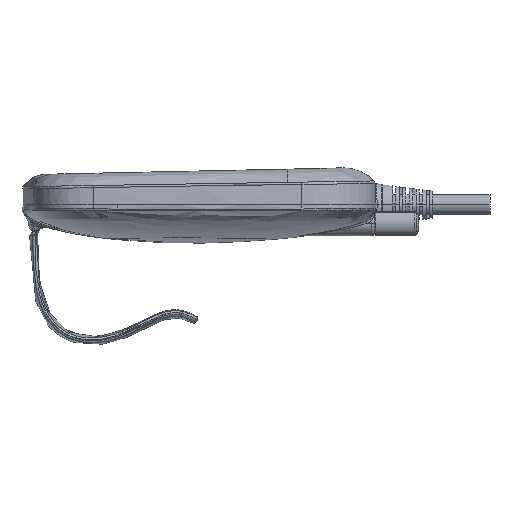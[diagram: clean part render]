
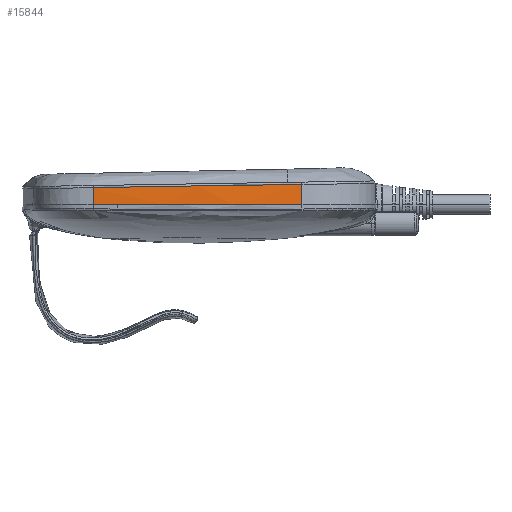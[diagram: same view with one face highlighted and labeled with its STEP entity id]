
A CAD part, left-side view. The second image highlights one B-rep face of the part: STEP entity #15844.
In plain terms, the highlighted conical face has half-angle 2 degrees and reference radius 450 mm.
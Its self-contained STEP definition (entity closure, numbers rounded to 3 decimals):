
#575 = DIRECTION ( 'NONE',  ( 1., 0., 0. ) ) ;
#582 = CARTESIAN_POINT ( 'NONE',  ( 356.381, 29.9, 0. ) ) ;
#583 = DIRECTION ( 'NONE',  ( 0., 0., -1. ) ) ;
#9381 = LINE ( 'NONE', #48833, #9403 ) ;
#9403 = VECTOR ( 'NONE', #48834, 1000. ) ;
#9409 = CIRCLE ( 'NONE', #34442, 450. ) ;
#9432 = LINE ( 'NONE', #14255, #9434 ) ;
#9434 = VECTOR ( 'NONE', #14256, 1000. ) ;
#14255 = CARTESIAN_POINT ( 'NONE',  ( -93.563, 37., 0. ) ) ;
#14256 = DIRECTION ( 'NONE',  ( -0.035, 0.001, -0.999 ) ) ;
#15844 = ADVANCED_FACE ( 'NONE', ( #41648 ), #41659, .T. ) ;
#20206 = EDGE_LOOP ( 'NONE', ( #49499, #49398, #49372, #49411 ) ) ;
#21352 = AXIS2_PLACEMENT_3D ( 'NONE', #582, #583, #575 ) ;
#27714 = CARTESIAN_POINT ( 'NONE',  ( -90.042, -25.027, 6.028 ) ) ;
#27764 = CARTESIAN_POINT ( 'NONE',  ( -93.563, 37., 0. ) ) ;
#27781 = CARTESIAN_POINT ( 'NONE',  ( -93.385, 36.997, 5.099 ) ) ;
#28426 = VERTEX_POINT ( 'NONE', #47716 ) ;
#28763 = EDGE_CURVE ( 'NONE', #28426, #51614, #9381, .T. ) ;
#28766 = EDGE_CURVE ( 'NONE', #28426, #51641, #9409, .T. ) ;
#28776 = EDGE_CURVE ( 'NONE', #51614, #51658, #43828, .T. ) ;
#28801 = EDGE_CURVE ( 'NONE', #51658, #51641, #9432, .T. ) ;
#34442 = AXIS2_PLACEMENT_3D ( 'NONE', #48835, #48875, #48876 ) ;
#41648 = FACE_OUTER_BOUND ( 'NONE', #20206, .T. ) ;
#41659 = CONICAL_SURFACE ( 'NONE', #21352, 450., 0.035 ) ;
#43828 = B_SPLINE_CURVE_WITH_KNOTS ( 'NONE', 3,
 ( #48916, #48935, #48936, #48937, #48938, #48939, #48940, #48941, #48942, #48943 ),
 .UNSPECIFIED., .F., .F.,
 ( 4, 2, 2, 2, 4 ),
 ( 0., 0.016, 0.023, 0.031, 0.062 ),
 .UNSPECIFIED. ) ;
#47716 = CARTESIAN_POINT ( 'NONE',  ( -90.251, -25.053, 0. ) ) ;
#48833 = CARTESIAN_POINT ( 'NONE',  ( -90.251, -25.053, 0. ) ) ;
#48834 = DIRECTION ( 'NONE',  ( 0.035, 0.004, 0.999 ) ) ;
#48835 = CARTESIAN_POINT ( 'NONE',  ( 356.381, 29.9, 0. ) ) ;
#48875 = DIRECTION ( 'NONE',  ( 0., 0., -1. ) ) ;
#48876 = DIRECTION ( 'NONE',  ( -1., 0., 0. ) ) ;
#48916 = CARTESIAN_POINT ( 'NONE',  ( -90.042, -25.027, 6.028 ) ) ;
#48935 = CARTESIAN_POINT ( 'NONE',  ( -90.678, -19.884, 5.956 ) ) ;
#48936 = CARTESIAN_POINT ( 'NONE',  ( -91.225, -14.732, 5.868 ) ) ;
#48937 = CARTESIAN_POINT ( 'NONE',  ( -91.91, -6.992, 5.769 ) ) ;
#48938 = CARTESIAN_POINT ( 'NONE',  ( -92.116, -4.41, 5.737 ) ) ;
#48939 = CARTESIAN_POINT ( 'NONE',  ( -92.484, 0.759, 5.67 ) ) ;
#48940 = CARTESIAN_POINT ( 'NONE',  ( -92.645, 3.346, 5.636 ) ) ;
#48941 = CARTESIAN_POINT ( 'NONE',  ( -93.342, 16.279, 5.465 ) ) ;
#48942 = CARTESIAN_POINT ( 'NONE',  ( -93.542, 26.634, 5.307 ) ) ;
#48943 = CARTESIAN_POINT ( 'NONE',  ( -93.385, 36.997, 5.099 ) ) ;
#49372 = ORIENTED_EDGE ( 'NONE', *, *, #28801, .T. ) ;
#49398 = ORIENTED_EDGE ( 'NONE', *, *, #28776, .T. ) ;
#49411 = ORIENTED_EDGE ( 'NONE', *, *, #28766, .F. ) ;
#49499 = ORIENTED_EDGE ( 'NONE', *, *, #28763, .T. ) ;
#51614 = VERTEX_POINT ( 'NONE', #27714 ) ;
#51641 = VERTEX_POINT ( 'NONE', #27764 ) ;
#51658 = VERTEX_POINT ( 'NONE', #27781 ) ;
